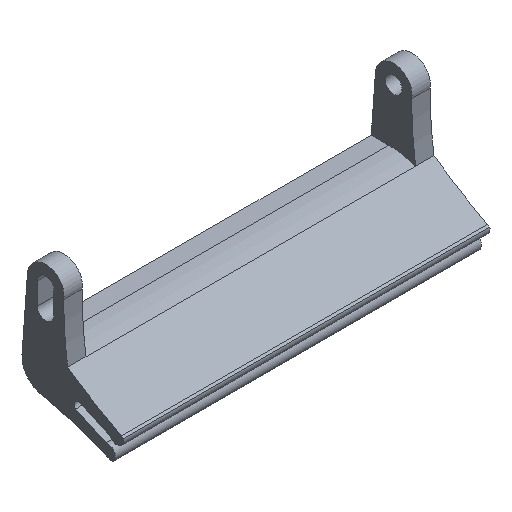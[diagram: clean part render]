
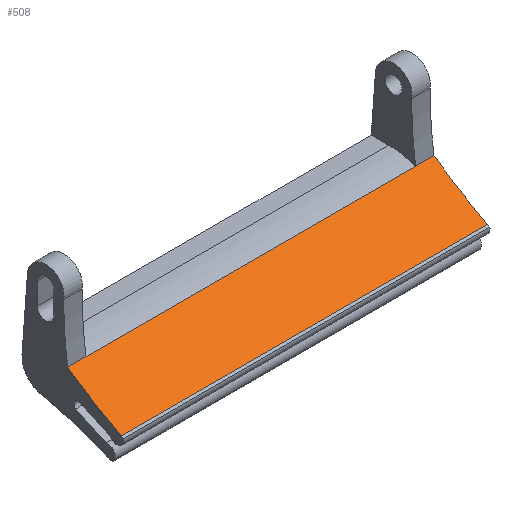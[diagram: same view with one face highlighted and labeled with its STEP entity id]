
A CAD part, isometric view. The second image highlights one B-rep face of the part: STEP entity #508.
In plain terms, the highlighted cylindrical face has radius 130.345 mm (diameter 260.689 mm), a partial arc.
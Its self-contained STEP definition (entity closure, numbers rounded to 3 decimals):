
#50=CIRCLE('',#575,130.344);
#51=CIRCLE('',#576,130.344);
#65=CYLINDRICAL_SURFACE('',#574,130.344);
#89=FACE_OUTER_BOUND('',#118,.T.);
#118=EDGE_LOOP('',(#430,#431,#432,#433,#434,#435));
#127=LINE('',#740,#168);
#137=LINE('',#800,#178);
#139=LINE('',#808,#180);
#140=LINE('',#813,#181);
#168=VECTOR('',#587,10.);
#178=VECTOR('',#619,10.);
#180=VECTOR('',#627,10.);
#181=VECTOR('',#632,10.);
#206=VERTEX_POINT('',#733);
#209=VERTEX_POINT('',#738);
#220=VERTEX_POINT('',#793);
#223=VERTEX_POINT('',#798);
#226=VERTEX_POINT('',#806);
#228=VERTEX_POINT('',#812);
#257=EDGE_CURVE('',#209,#206,#127,.T.);
#274=EDGE_CURVE('',#220,#223,#137,.T.);
#278=EDGE_CURVE('',#223,#226,#139,.T.);
#280=EDGE_CURVE('',#228,#220,#140,.T.);
#323=EDGE_CURVE('',#209,#228,#50,.T.);
#324=EDGE_CURVE('',#206,#226,#51,.T.);
#430=ORIENTED_EDGE('',*,*,#323,.T.);
#431=ORIENTED_EDGE('',*,*,#280,.T.);
#432=ORIENTED_EDGE('',*,*,#274,.T.);
#433=ORIENTED_EDGE('',*,*,#278,.T.);
#434=ORIENTED_EDGE('',*,*,#324,.F.);
#435=ORIENTED_EDGE('',*,*,#257,.F.);
#508=ADVANCED_FACE('',(#89),#65,.F.);
#574=AXIS2_PLACEMENT_3D('',#1143,#717,#718);
#575=AXIS2_PLACEMENT_3D('',#1144,#719,#720);
#576=AXIS2_PLACEMENT_3D('',#1145,#721,#722);
#587=DIRECTION('',(-1.,0.,0.));
#619=DIRECTION('',(-1.,0.,0.));
#627=DIRECTION('',(-1.,0.,0.));
#632=DIRECTION('',(-1.,0.,0.));
#717=DIRECTION('center_axis',(-1.,0.,0.));
#718=DIRECTION('ref_axis',(0.,0.468,-0.884));
#719=DIRECTION('center_axis',(1.,0.,0.));
#720=DIRECTION('ref_axis',(0.,0.468,-0.884));
#721=DIRECTION('center_axis',(1.,0.,0.));
#722=DIRECTION('ref_axis',(0.,0.468,-0.884));
#733=CARTESIAN_POINT('',(-100.,-20.587,-5.231));
#738=CARTESIAN_POINT('',(0.,-20.587,-5.231));
#740=CARTESIAN_POINT('',(0.,-20.587,-5.231));
#793=CARTESIAN_POINT('',(-5.,-5.992,3.693));
#798=CARTESIAN_POINT('',(-95.,-5.992,3.693));
#800=CARTESIAN_POINT('',(0.,-5.992,3.693));
#806=CARTESIAN_POINT('',(-100.,-5.992,3.693));
#808=CARTESIAN_POINT('',(0.,-5.992,3.693));
#812=CARTESIAN_POINT('',(0.,-5.992,3.693));
#813=CARTESIAN_POINT('',(0.,-5.992,3.693));
#1143=CARTESIAN_POINT('Origin',(0.,-81.136,110.197));
#1144=CARTESIAN_POINT('Origin',(0.,-81.136,110.197));
#1145=CARTESIAN_POINT('Origin',(-100.,-81.136,110.197));
